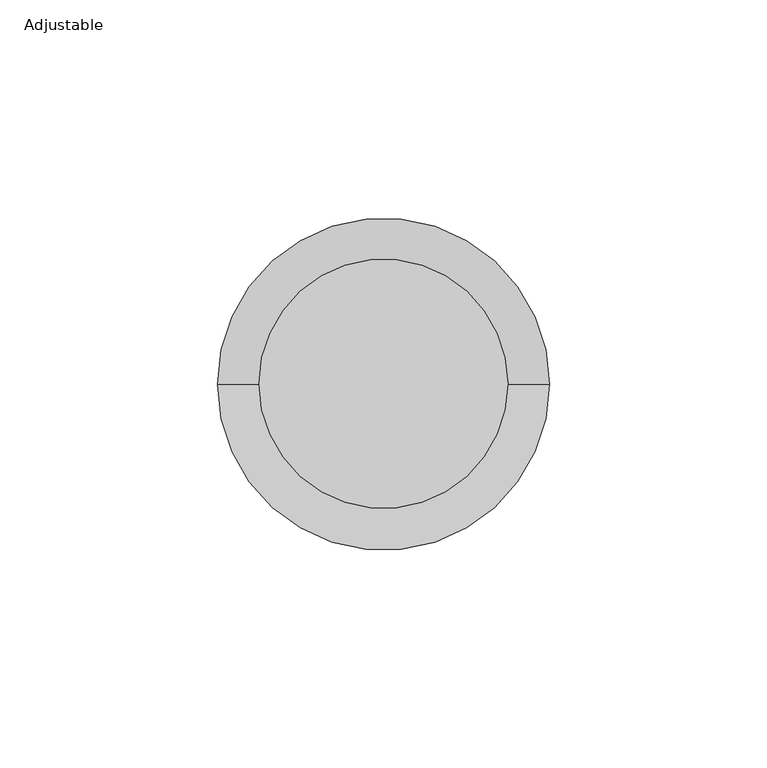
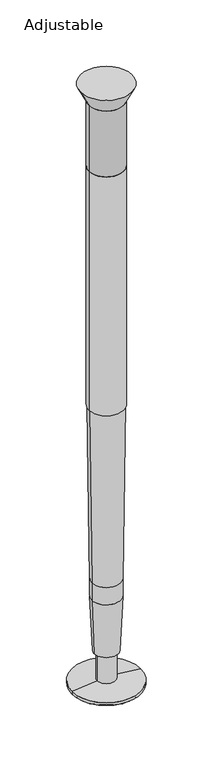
"""IFC4 building model written with IfcOpenShell, lengths in millimetres: furniture geometry, Steelcase - C Scape - Desking - Post Leg : Adjustable."""

from ifc_helpers import new_model, si_unit, point, frame, origin, origin_2d, place, context, project, spatial, polyline, circle_curve, ellipse_curve, trimmed, segment, composite_curve, outline, extrude, source, transform, mapped, element, save
from ifc_brep_helpers import plane_surface, cylinder_surface, revolved_surface, advanced_brep


def adjustable_a4867878(model_context):
    return source(origin(), model_context, "Body", "SolidModel", [
        advanced_brep(
        [(19.2770509, 0.0, 607.19311), (-19.2770509, 0.0, 607.19311), (0.0, 0.0, 607.19311), (19.2770509, 0.0, 327.9648), (-19.2770509, 0.0, 327.9648), (18.4712071, 0.0, 327.9648), (-18.4712071, 0.0, 327.9648), (15.9494031, 0.0, 124.7803201), (-15.9494031, 0.0, 124.7803201), (15.9494031, 0.0, 104.4976634), (-15.9494031, 0.0, 104.4976634), (13.462, 0.0, 41.0464), (-13.462, 0.0, 41.0464), (10.1213756, 0.0, 41.0464), (-10.1213756, 0.0, 41.0464), (10.1213756, 0.0, 8.3728532), (-10.1213756, 0.0, 8.3728532), (38.1, 0.0, 5.4321813), (-38.1, 0.0, 5.4321813), (38.1, 0.0, 2.3814588), (-38.1, 0.0, 2.3814588), (37.2013858, 0.0, 2.0498313), (-37.2013858, 0.0, 2.0498313), (36.0985783, 0.0, 1.1244659), (-36.0985783, 0.0, 1.1244659), (25.4, 0.0, 0.0), (-25.4, 0.0, 0.0), (0.0, 0.0, 0.0)],
        [
            (0, 1, circle_curve(frame((0.0, 0.0, 607.19311), z_axis=(0.0, 0.0, 1.0), x_axis=(-1.0, 0.0, 0.0)), 19.2770509)),
            (1, 2),
            (2, 0),
            (1, 0, circle_curve(frame((0.0, 0.0, 607.19311), z_axis=(0.0, 0.0, 1.0), x_axis=(-1.0, 0.0, 0.0)), 19.2770509)),
            (0, 3),
            (3, 4, circle_curve(frame((0.0, 0.0, 327.9648), z_axis=(0.0, 0.0, 1.0), x_axis=(-1.0, 0.0, 0.0)), 19.2770509)),
            (4, 1),
            (4, 3, circle_curve(frame((0.0, 0.0, 327.9648), z_axis=(0.0, 0.0, 1.0), x_axis=(-1.0, 0.0, 0.0)), 19.2770509)),
            (3, 5),
            (5, 6, circle_curve(frame((0.0, 0.0, 327.9648), z_axis=(0.0, 0.0, 1.0), x_axis=(-1.0, 0.0, 0.0)), 18.4712071)),
            (6, 4),
            (6, 5, circle_curve(frame((0.0, 0.0, 327.9648), z_axis=(0.0, 0.0, 1.0), x_axis=(-1.0, 0.0, 0.0)), 18.4712071)),
            (5, 7),
            (7, 8, circle_curve(frame((0.0, 0.0, 124.7803201), z_axis=(0.0, 0.0, 1.0), x_axis=(-1.0, 0.0, 0.0)), 15.9494031)),
            (8, 6),
            (8, 7, circle_curve(frame((0.0, 0.0, 124.7803201), z_axis=(0.0, 0.0, 1.0), x_axis=(-1.0, 0.0, 0.0)), 15.9494031)),
            (7, 9),
            (9, 10, circle_curve(frame((0.0, 0.0, 104.4976634), z_axis=(0.0, 0.0, 1.0), x_axis=(-1.0, 0.0, 0.0)), 15.9494031)),
            (10, 8),
            (10, 9, circle_curve(frame((0.0, 0.0, 104.4976634), z_axis=(0.0, 0.0, 1.0), x_axis=(-1.0, 0.0, 0.0)), 15.9494031)),
            (9, 11),
            (11, 12, circle_curve(frame((0.0, 0.0, 41.0464), z_axis=(0.0, 0.0, 1.0), x_axis=(-1.0, 0.0, 0.0)), 13.462)),
            (12, 10),
            (12, 11, circle_curve(frame((0.0, 0.0, 41.0464), z_axis=(0.0, 0.0, 1.0), x_axis=(-1.0, 0.0, 0.0)), 13.462)),
            (11, 13),
            (13, 14, circle_curve(frame((0.0, 0.0, 41.0464), z_axis=(0.0, 0.0, 1.0), x_axis=(-1.0, 0.0, 0.0)), 10.1213756)),
            (14, 12),
            (14, 13, circle_curve(frame((0.0, 0.0, 41.0464), z_axis=(0.0, 0.0, 1.0), x_axis=(-1.0, 0.0, 0.0)), 10.1213756)),
            (13, 15),
            (15, 16, circle_curve(frame((0.0, 0.0, 8.3728532), z_axis=(0.0, 0.0, 1.0), x_axis=(-1.0, 0.0, 0.0)), 10.1213756)),
            (16, 14),
            (16, 15, circle_curve(frame((0.0, 0.0, 8.3728532), z_axis=(0.0, 0.0, 1.0), x_axis=(-1.0, 0.0, 0.0)), 10.1213756)),
            (15, 17, circle_curve(frame((-2.5418703, 0.0, -246.6796346), z_axis=(0.0, 1.0, 0.0), x_axis=(-1.0, 0.0, 0.0)), 255.3666566)),
            (17, 18, circle_curve(frame((0.0, 0.0, 5.4321813), z_axis=(0.0, 0.0, 1.0), x_axis=(-1.0, 0.0, 0.0)), 38.1)),
            (18, 16, circle_curve(frame((2.5418703, 0.0, -246.6796346), z_axis=(0.0, 1.0, 0.0), x_axis=(1.0, 0.0, 0.0)), 255.3666566)),
            (18, 17, circle_curve(frame((0.0, 0.0, 5.4321813), z_axis=(0.0, 0.0, 1.0), x_axis=(-1.0, 0.0, 0.0)), 38.1)),
            (17, 19),
            (19, 20, circle_curve(frame((0.0, 0.0, 2.3814588), z_axis=(0.0, 0.0, 1.0), x_axis=(-1.0, 0.0, 0.0)), 38.1)),
            (20, 18),
            (20, 19, circle_curve(frame((0.0, 0.0, 2.3814588), z_axis=(0.0, 0.0, 1.0), x_axis=(-1.0, 0.0, 0.0)), 38.1)),
            (19, 21, circle_curve(frame((38.0983279, 0.0, 1.0026845), z_axis=(0.0, -1.0, 0.0), x_axis=(-1.0, 0.0, 0.0)), 1.3787754)),
            (21, 22, circle_curve(frame((0.0, 0.0, 2.0498313), z_axis=(0.0, 0.0, 1.0), x_axis=(-1.0, 0.0, 0.0)), 37.2013858)),
            (22, 20, circle_curve(frame((-38.0983279, 0.0, 1.0026845), z_axis=(0.0, -1.0, 0.0), x_axis=(1.0, 0.0, 0.0)), 1.3787754)),
            (22, 21, circle_curve(frame((0.0, 0.0, 2.0498313), z_axis=(0.0, 0.0, 1.0), x_axis=(-1.0, 0.0, 0.0)), 37.2013858)),
            (21, 23, circle_curve(frame((35.9640267, 0.0, 2.4046383), z_axis=(0.0, 1.0, 0.0), x_axis=(-1.0, 0.0, 0.0)), 1.287224)),
            (23, 24, circle_curve(frame((0.0, 0.0, 1.1244659), z_axis=(0.0, 0.0, 1.0), x_axis=(-1.0, 0.0, 0.0)), 36.0985783)),
            (24, 22, circle_curve(frame((-35.9640267, 0.0, 2.4046383), z_axis=(0.0, 1.0, 0.0), x_axis=(1.0, 0.0, 0.0)), 1.287224)),
            (24, 23, circle_curve(frame((0.0, 0.0, 1.1244659), z_axis=(0.0, 0.0, 1.0), x_axis=(-1.0, 0.0, 0.0)), 36.0985783)),
            (23, 25),
            (25, 26, circle_curve(frame((0.0, 0.0, 0.0), z_axis=(0.0, 0.0, 1.0), x_axis=(-1.0, 0.0, 0.0)), 25.4)),
            (26, 24),
            (26, 25, circle_curve(frame((0.0, 0.0, 0.0), z_axis=(0.0, 0.0, 1.0), x_axis=(-1.0, 0.0, 0.0)), 25.4)),
            (25, 27),
            (27, 26),
        ],
        [
            plane_surface(frame((0.0, 0.0, 607.19311), z_axis=(0.0, 0.0, 1.0), x_axis=(-1.0, 0.0, 0.0))),
            cylinder_surface(frame((0.0, 0.0, 607.19311), z_axis=(0.0, 0.0, -1.0), x_axis=(-1.0, 0.0, 0.0)), 19.2770509),
            plane_surface(frame((0.0, 0.0, 327.9648), z_axis=(0.0, 0.0, -1.0), x_axis=(-1.0, 0.0, 0.0))),
            revolved_surface(polyline([(-18.4712071, 0.0, 327.9648), (-15.9494031, 0.0, 124.7803201)]), (0.0, 0.0, 607.19311), (0.0, 0.0, -1.0)),
            cylinder_surface(frame((0.0, 0.0, 607.19311), z_axis=(0.0, 0.0, -1.0), x_axis=(-1.0, 0.0, 0.0)), 15.9494031),
            revolved_surface(polyline([(-15.9494031, 0.0, 104.4976634), (-13.462, 0.0, 41.0464)]), (0.0, 0.0, 607.19311), (0.0, 0.0, -1.0)),
            plane_surface(frame((0.0, 0.0, 41.0464), z_axis=(0.0, 0.0, -1.0), x_axis=(-1.0, 0.0, 0.0))),
            cylinder_surface(frame((0.0, 0.0, 607.19311), z_axis=(0.0, 0.0, -1.0), x_axis=(-1.0, 0.0, 0.0)), 10.1213756),
            revolved_surface(trimmed(ellipse_curve(frame((2.5418703, 0.0, -246.6796346), z_axis=(0.0, -1.0, 0.0), x_axis=(1.0, 0.0, 0.0)), 255.3666566, 255.3666566), [point((-10.1213756, 0.0, 8.3728532))], [point((-38.1, 0.0, 5.4321813))], True, "CARTESIAN"), (0.0, 0.0, 607.19311), (0.0, 0.0, -1.0)),
            cylinder_surface(frame((0.0, 0.0, 607.19311), z_axis=(0.0, 0.0, -1.0), x_axis=(-1.0, 0.0, 0.0)), 38.1),
            revolved_surface(trimmed(ellipse_curve(frame((-38.0983279, 0.0, 1.0026845), z_axis=(0.0, 1.0, 0.0), x_axis=(1.0, 0.0, 0.0)), 1.3787754, 1.3787754), [point((-38.1, 0.0, 2.3814588))], [point((-37.2013858, 0.0, 2.0498313))], True, "CARTESIAN"), (0.0, 0.0, 607.19311), (0.0, 0.0, -1.0)),
            revolved_surface(trimmed(ellipse_curve(frame((-35.9640267, 0.0, 2.4046383), z_axis=(0.0, -1.0, 0.0), x_axis=(1.0, 0.0, 0.0)), 1.287224, 1.287224), [point((-37.2013858, 0.0, 2.0498313))], [point((-36.0985783, 0.0, 1.1244659))], True, "CARTESIAN"), (0.0, 0.0, 607.19311), (0.0, 0.0, -1.0)),
            revolved_surface(polyline([(-36.0985783, 0.0, 1.1244659), (-25.4, 0.0, 0.0)]), (0.0, 0.0, 607.19311), (0.0, 0.0, -1.0)),
            plane_surface(frame((0.0, 0.0, 0.0), z_axis=(0.0, 0.0, -1.0), x_axis=(-1.0, 0.0, 0.0))),
        ],
        [
            (0, [[1, 2, 3]]),
            (0, [[-2, 4, -3]]),
            (1, [[-1, 5, 6, 7]]),
            (1, [[-4, -7, 8, -5]]),
            (2, [[-6, 9, 10, 11]]),
            (2, [[-8, -11, 12, -9]]),
            (3, [[-10, 13, 14, 15]]),
            (3, [[-12, -15, 16, -13]]),
            (4, [[-14, 17, 18, 19]]),
            (4, [[-16, -19, 20, -17]]),
            (5, [[-18, 21, 22, 23]]),
            (5, [[-20, -23, 24, -21]]),
            (6, [[-22, 25, 26, 27]]),
            (6, [[-24, -27, 28, -25]]),
            (7, [[-26, 29, 30, 31]]),
            (7, [[-28, -31, 32, -29]]),
            (8, [[-30, 33, 34, 35]]),
            (8, [[-32, -35, 36, -33]]),
            (9, [[-34, 37, 38, 39]]),
            (9, [[-36, -39, 40, -37]]),
            (10, [[-38, 41, 42, 43]]),
            (10, [[-40, -43, 44, -41]]),
            (11, [[-42, 45, 46, 47]]),
            (11, [[-44, -47, 48, -45]]),
            (12, [[-46, 49, 50, 51]]),
            (12, [[-48, -51, 52, -49]]),
            (13, [[-50, 53, 54]]),
            (13, [[-52, -54, -53]]),
        ],
    ),
        advanced_brep(
        [(18.9477108, 0.0, 684.263971), (-18.9477108, 0.0, 684.263971), (28.575, 0.0, 703.326), (-28.575, 0.0, 703.326)],
        [
            (0, 1, circle_curve(frame((0.0, 0.0, 684.263971), z_axis=(0.0, 0.0, -1.0), x_axis=(1.0, 0.0, 0.0)), 18.9477108)),
            (1, 0, circle_curve(frame((0.0, 0.0, 684.263971), z_axis=(0.0, 0.0, -1.0), x_axis=(-1.0, 0.0, 0.0)), 18.9477108)),
            (2, 3, circle_curve(frame((0.0, 0.0, 703.326), z_axis=(0.0, 0.0, 1.0), x_axis=(-1.0, 0.0, 0.0)), 28.575)),
            (3, 2, circle_curve(frame((0.0, 0.0, 703.326), z_axis=(0.0, 0.0, 1.0), x_axis=(1.0, 0.0, 0.0)), 28.575)),
            (0, 2),
            (3, 1),
        ],
        [
            plane_surface(frame((0.0, 0.0, 684.263971), z_axis=(0.0, 0.0, -1.0), x_axis=(0.0, 1.0, 0.0))),
            plane_surface(frame((0.0, 0.0, 703.326), z_axis=(0.0, 0.0, 1.0), x_axis=(0.0, 1.0, 0.0))),
            revolved_surface(polyline([(18.9477108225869, 0.0, 684.263971), (28.575, 0.0, 703.326)]), (0.0, 0.0, 646.7475106), (0.0, 0.0, 1.0)),
            revolved_surface(polyline([(-18.9477108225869, 0.0, 684.263971), (-28.575, 0.0, 703.326)]), (0.0, 0.0, 646.7475106), (0.0, 0.0, 1.0)),
        ],
        [
            (0, [[1, 2]]),
            (1, [[3, 4]]),
            (2, [[-1, 5, -4, 6]]),
            (3, [[-2, -6, -3, -5]]),
        ],
    ),
        extrude(outline(composite_curve([segment(trimmed(circle_curve(origin_2d(), 19.2770509), [point((19.2770509, 0.0))], [point((-19.2770509, 0.0))], False, "CARTESIAN"), True, "CONTINUOUS"), segment(trimmed(circle_curve(origin_2d(), 19.2770509), [point((-19.2770509, 0.0))], [point((19.2770509, 0.0))], False, "CARTESIAN"), True, "CONTINUOUS")], self_intersect=False)), frame((0.0, 0.0, 607.19311), z_axis=(0.0, 0.0, 1.0), x_axis=(1.0, 0.0, 0.0)), (0.0, 0.0, 1.0), 77.070861),
    ])


if __name__ == "__main__":
    model = new_model("IFC4")
    model_context = context("Model", 3, world=origin())
    ifc_project = project(units=[si_unit("LENGTHUNIT", "METRE", prefix="MILLI")], contexts=[model_context])
    site = spatial("IfcSite", under=ifc_project)
    building = spatial("IfcBuilding", under=site)
    placement = place(None, origin())
    adjustable_shape = adjustable_a4867878(model_context)
    element("IfcFurniture", 1, ObjectType="Steelcase - C Scape - Desking - Post Leg : Adjustable", at=placement, inside=building, context=model_context, shape_type="MappedRepresentation", body=[
        mapped(adjustable_shape, transform((0.0, 0.0, 0.0), x_axis=(1.0, 0.0, 0.0), y_axis=(0.0, 1.0, 0.0), z_axis=(0.0, 0.0, 1.0))),
    ])
    save(model, "model.ifc")
